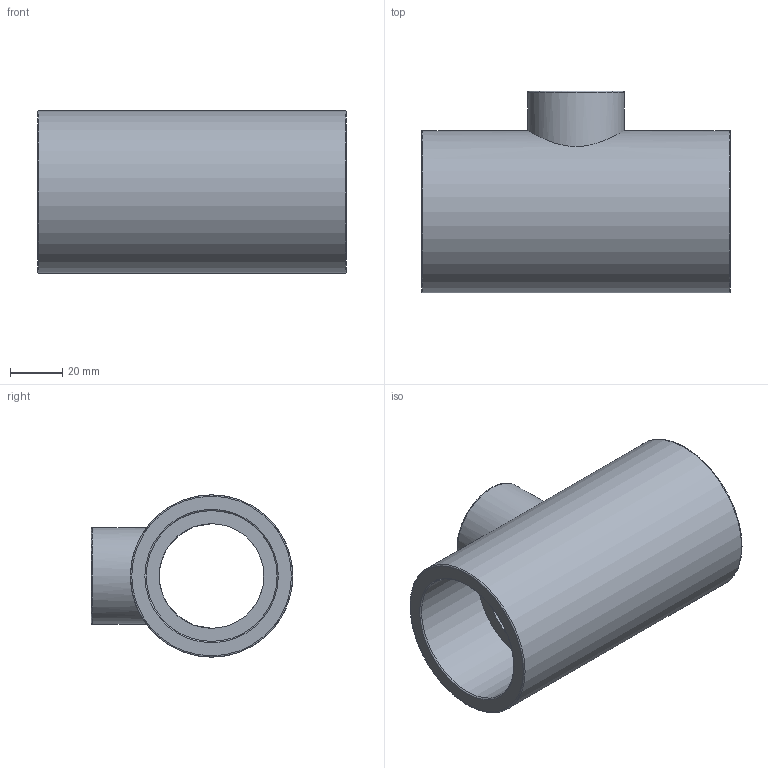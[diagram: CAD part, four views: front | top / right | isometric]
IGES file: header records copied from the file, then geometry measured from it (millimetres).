
Global section: file name: 051400050025.ipt; native system: Autodesk Inventor 2015; preprocessor: unknown; author: KIM; date: 20171207.165218; units: millimetre
Bounding box: 118 x 77 x 62 mm (x, y, z)
Volume: 168876.4 mm3; surface area: 46458.9 mm2
Topology: 1 solids, 1 shells, 19 faces, 58 edges, 44 vertices
Faces by surface type: revolution 11, plane 6, cylinder 2
Full cylindrical faces by diameter (mm): 37 x1, 62 x1
